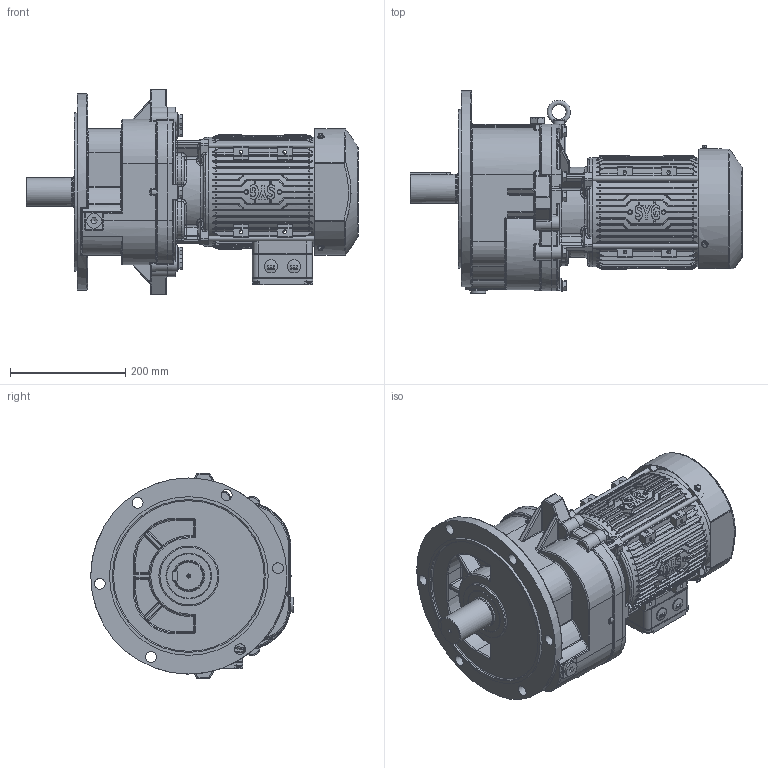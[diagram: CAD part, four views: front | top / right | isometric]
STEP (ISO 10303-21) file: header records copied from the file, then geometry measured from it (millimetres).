
FILE_DESCRIPTION(/* description */ (''),/* implementation_level */ '2;1');
FILE_NAME(/* name */ 'D:\▼ 3D：MG\01. 내부 직접 검토품\MG 181\외형도용 - ASS''Y\SK2\MG1810B - OUTLINE (SK2，VT，2.2kW).stp',/* time_stamp */ '2026-04-22T10:24:34+09:00',/* author */ ('이정훈'),/* organization */ (''),/* preprocessor_version */ 'ST-DEVELOPER v18.1',/* originating_system */ 'Autodesk Inventor 2022',/* authorisation */ '');
FILE_SCHEMA (('AUTOMOTIVE_DESIGN { 1 0 10303 214 3 1 1 }'));
Products named in the file (1): MG1810B - OUTLINE (SK2，VT，2.2kW
)
Bounding box: 575.5 x 351 x 356 mm (x, y, z)
Volume: 18765252.3 mm3; surface area: 946207.9 mm2
Topology: 2 solids, 2 shells, 4600 faces, 11643 edges, 7012 vertices
Faces by surface type: plane 1522, cylinder 1475, bspline 1001, torus 246, cone 244, sphere 112
Full cylindrical faces by diameter (mm): 4 x1, 5.5 x3, 8 x4, 8.917 x2, 9 x4, 9.5 x4, 10 x9, 12 x9, 13 x4, 13.097 x1, 19 x6, 23 x3, 26 x3, 26.194 x1, 30.5 x1, 47 x1, 49.4 x1, 50 x1, 62 x1, 78 x1, 100 x1, 189 x2, 265 x1, 275 x1, 340 x1
Entity records: 189976 total; most frequent: CARTESIAN_POINT 83849, ORIENTED_EDGE 23072, DIRECTION 21432, EDGE_CURVE 11536, AXIS2_PLACEMENT_3D 8429, VERTEX_POINT 7024, EDGE_LOOP 4738, FACE_OUTER_BOUND 4600
